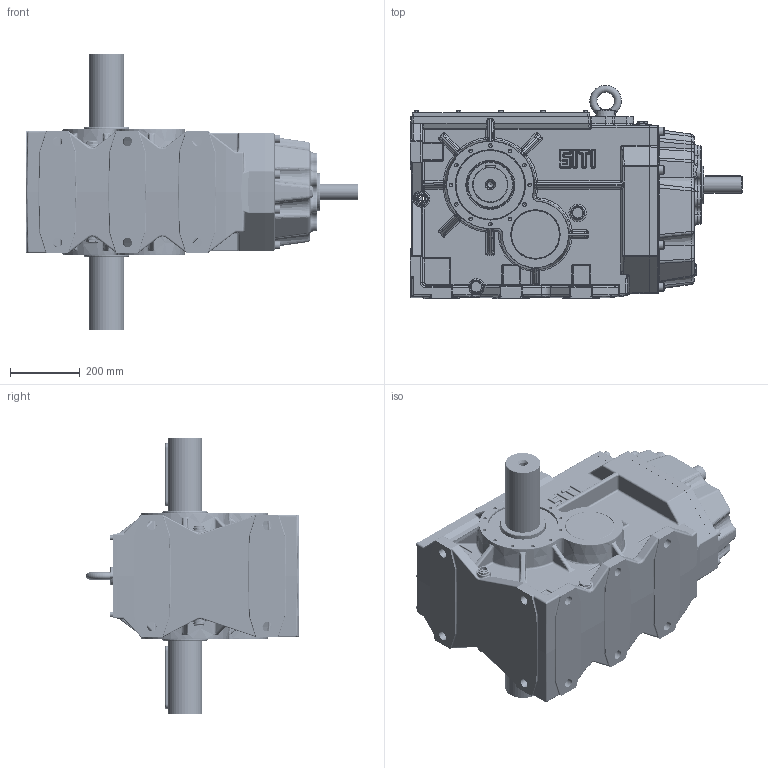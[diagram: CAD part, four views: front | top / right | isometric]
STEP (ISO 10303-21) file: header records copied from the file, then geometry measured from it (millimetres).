
FILE_DESCRIPTION((''),'2;1');
FILE_NAME('O:\Figurini\Figurini BH\3D\180\BH 180 MD.stp','2013-05-22T10:54:32',('d.iannaccio'),(''),'Autodesk Inventor 2012','Autodesk Inventor 2012','');
FILE_SCHEMA(('AUTOMOTIVE_DESIGN { 1 0 10303 214 1 1 1 1 }'));
Length unit declared in the file: millimetre
Products named in the file (1): BH_180 MD
Bounding box: 950.5 x 610 x 790 mm (x, y, z)
Volume: 42223588.5 mm3; surface area: 4234376.1 mm2
Topology: 3 solids, 52 shells, 3682 faces, 8703 edges, 5138 vertices
Faces by surface type: cylinder 1181, plane 985, bspline 695, torus 387, cone 240, sphere 194
Full cylindrical faces by diameter (mm): 2.4 x1, 6.647 x12, 8 x24, 8.4 x1, 9 x12, 10 x19, 10.106 x26, 10.5 x3, 13 x12, 13.835 x8, 16 x8, 17 x9, 17.25 x2, 18 x1, 19.6 x1, 20 x4, 20.752 x2, 21 x2, 24 x8, 24.117 x8, 26.5 x2, 27 x10, 31 x7, 31.9 x1, 40 x1, 48 x1, 62 x1, 64.4 x1, 65 x2, 76.5 x2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
Entity records: 126277 total; most frequent: CARTESIAN_POINT 44892, DIRECTION 15948, ORIENTED_EDGE 15634, EDGE_CURVE 7817, AXIS2_PLACEMENT_3D 6578, VERTEX_POINT 4880, EDGE_LOOP 4422, STYLED_ITEM 3683
